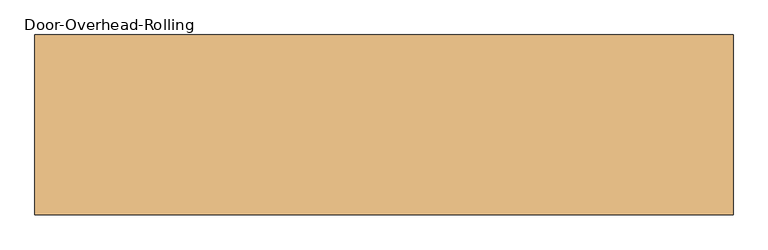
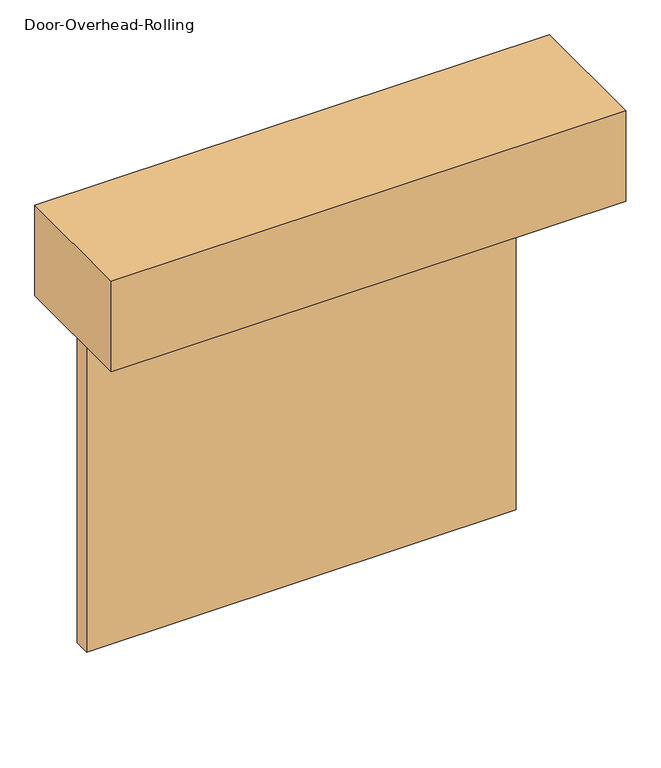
"""IFC4 building model written with IfcOpenShell, lengths in millimetres: door geometry, Door-Overhead-Rolling : 168'' x 168''."""

from ifc_helpers import new_model, si_unit, frame, origin, origin_with_axes, place, context, project, spatial, polyline, outline, extrude, source, transform, mapped, element, save


def door_overhead_rolling_9cc751ae(model_context):
    return source(origin(), model_context, "Body", "SweptSolid", [
        extrude(outline(polyline([(1231.9, -787.4), (-1231.9, -787.4), (-1231.9, -152.4), (1231.9, -152.4), (1231.9, -787.4)])), frame((0.0, 0.0, 1828.8), z_axis=(0.0, 0.0, 1.0), x_axis=(1.0, 0.0, 0.0)), (0.0, 0.0, 1.0), 457.2),
        extrude(outline(polyline([(1028.7, -152.4), (1028.7, -228.6), (-1028.7, -228.6), (-1028.7, -152.4), (1028.7, -152.4)])), origin_with_axes(), (0.0, 0.0, 1.0), 1828.8),
    ])


if __name__ == "__main__":
    model = new_model("IFC4")
    model_context = context("Model", 3, world=origin())
    ifc_project = project(units=[si_unit("LENGTHUNIT", "METRE", prefix="MILLI")], contexts=[model_context])
    site = spatial("IfcSite", under=ifc_project)
    building = spatial("IfcBuilding", under=site)
    placement = place(None, origin())
    door_overhead_rolling_shape = door_overhead_rolling_9cc751ae(model_context)
    element("IfcDoor", 1, ObjectType="Door-Overhead-Rolling : 168'' x 168''", at=placement, inside=building, context=model_context, shape_type="MappedRepresentation", body=[
        mapped(door_overhead_rolling_shape, transform((0.0, 0.0, 0.0), x_axis=(1.0, 0.0, 0.0), y_axis=(0.0, 1.0, 0.0), z_axis=(0.0, 0.0, 1.0))),
    ])
    save(model, "model.ifc")
